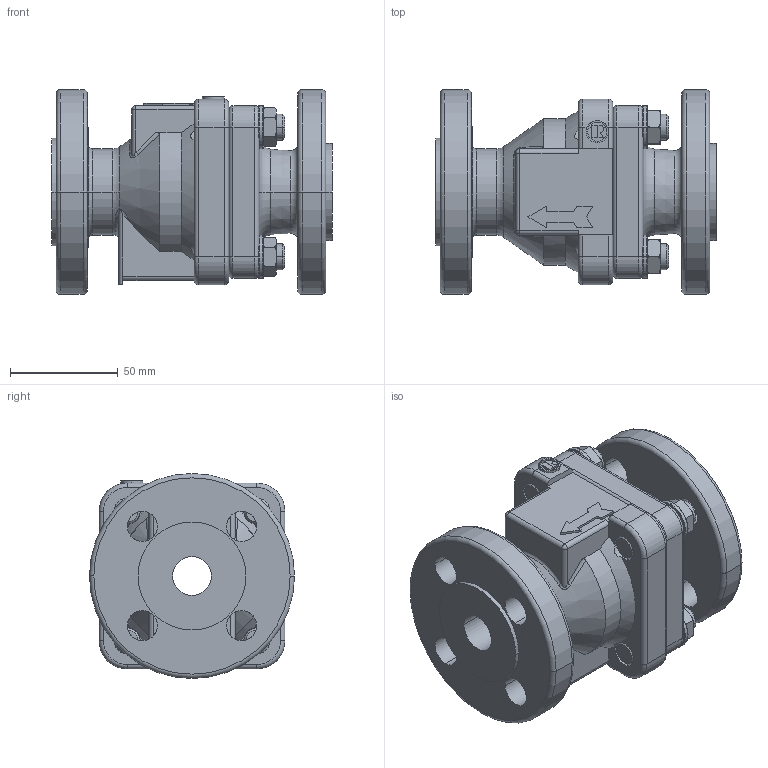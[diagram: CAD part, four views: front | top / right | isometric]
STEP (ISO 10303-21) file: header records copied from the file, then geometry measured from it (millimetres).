
FILE_DESCRIPTION((''),'2;1');
FILE_NAME('9595-20-0300_E_CV15_PROE','2015-03-18T',('SParmar1'),(''),'PRO/ENGINEER BY PARAMETRIC TECHNOLOGY CORPORATION, 2011040','PRO/ENGINEER BY PARAMETRIC TECHNOLOGY CORPORATION, 2011040','');
FILE_SCHEMA(('CONFIG_CONTROL_DESIGN'));
Length unit declared in the file: millimetre
Products named in the file (1): 9595-20-0300_E_CV15_PROE
Bounding box: 130 x 95 x 95 mm (x, y, z)
Volume: 537878.6 mm3; surface area: 80678.6 mm2
Topology: 1 solids, 5 shells, 361 faces, 927 edges, 581 vertices
Faces by surface type: plane 115, cylinder 111, torus 98, cone 23, bspline 12, sphere 2
Entity records: 13105 total; most frequent: CARTESIAN_POINT 4332, DIRECTION 1842, ORIENTED_EDGE 1838, EDGE_CURVE 927, AXIS2_PLACEMENT_3D 737, VERTEX_POINT 581, EDGE_LOOP 394, CIRCLE 387
